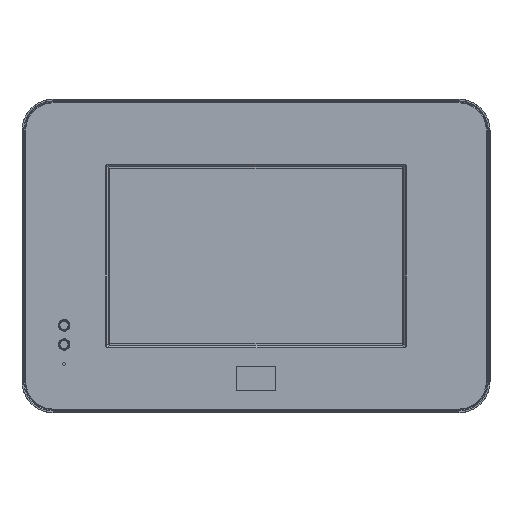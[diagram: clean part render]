
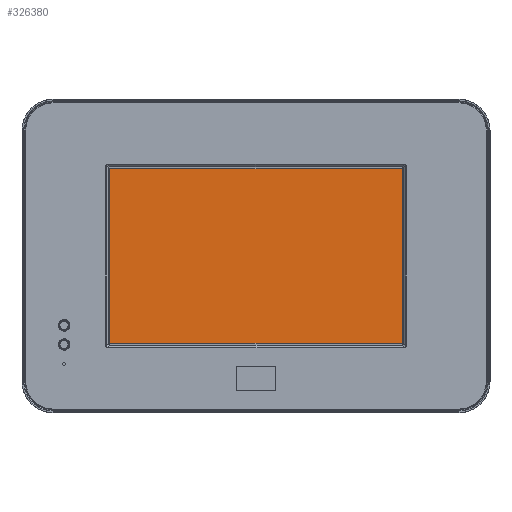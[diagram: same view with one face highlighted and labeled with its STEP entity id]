
A CAD part, top view. The second image highlights one B-rep face of the part: STEP entity #326380.
In plain terms, the highlighted planar face has unit normal (0, 0, 1) as drawn and (0, -1, 0) by its records, which use the part's own axes.
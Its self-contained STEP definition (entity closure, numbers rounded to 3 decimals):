
#322670=CARTESIAN_POINT('',(260.287,44.352,92.83));
#322680=VERTEX_POINT('',#322670);
#322710=CARTESIAN_POINT('',(260.287,44.352,0.));
#322720=DIRECTION('',(0.,0.,-1.));
#322730=VECTOR('',#322720,1.);
#322740=LINE('',#322710,#322730);
#322750=CARTESIAN_POINT('',(260.287,44.352,1.43));
#322760=VERTEX_POINT('',#322750);
#322770=EDGE_CURVE('',#322680,#322760,#322740,.T.);
#323290=CARTESIAN_POINT('',(413.287,44.352,1.43));
#323300=VERTEX_POINT('',#323290);
#323330=CARTESIAN_POINT('',(413.287,44.352,0.));
#323340=DIRECTION('',(0.,0.,1.));
#323350=VECTOR('',#323340,1.);
#323360=LINE('',#323330,#323350);
#323370=CARTESIAN_POINT('',(413.287,44.352,92.83));
#323380=VERTEX_POINT('',#323370);
#323390=EDGE_CURVE('',#323300,#323380,#323360,.T.);
#326170=CARTESIAN_POINT('',(0.,44.352,0.));
#326180=DIRECTION('',(0.,-1.,0.));
#326190=DIRECTION('',(1.,0.,0.));
#326200=AXIS2_PLACEMENT_3D('',#326170,#326180,#326190);
#326210=PLANE('',#326200);
#326220=ORIENTED_EDGE('',*,*,#323390,.T.);
#326230=CARTESIAN_POINT('',(0.,44.352,1.43));
#326240=DIRECTION('',(1.,0.,0.));
#326250=VECTOR('',#326240,1.);
#326260=LINE('',#326230,#326250);
#326270=EDGE_CURVE('',#322760,#323300,#326260,.T.);
#326280=ORIENTED_EDGE('',*,*,#326270,.T.);
#326290=ORIENTED_EDGE('',*,*,#322770,.T.);
#326300=CARTESIAN_POINT('',(0.,44.352,92.83));
#326310=DIRECTION('',(-1.,0.,0.));
#326320=VECTOR('',#326310,1.);
#326330=LINE('',#326300,#326320);
#326340=EDGE_CURVE('',#323380,#322680,#326330,.T.);
#326350=ORIENTED_EDGE('',*,*,#326340,.T.);
#326360=EDGE_LOOP('',(#326350,#326290,#326280,#326220));
#326370=FACE_OUTER_BOUND('',#326360,.T.);
#326380=ADVANCED_FACE('',(#326370),#326210,.T.);
